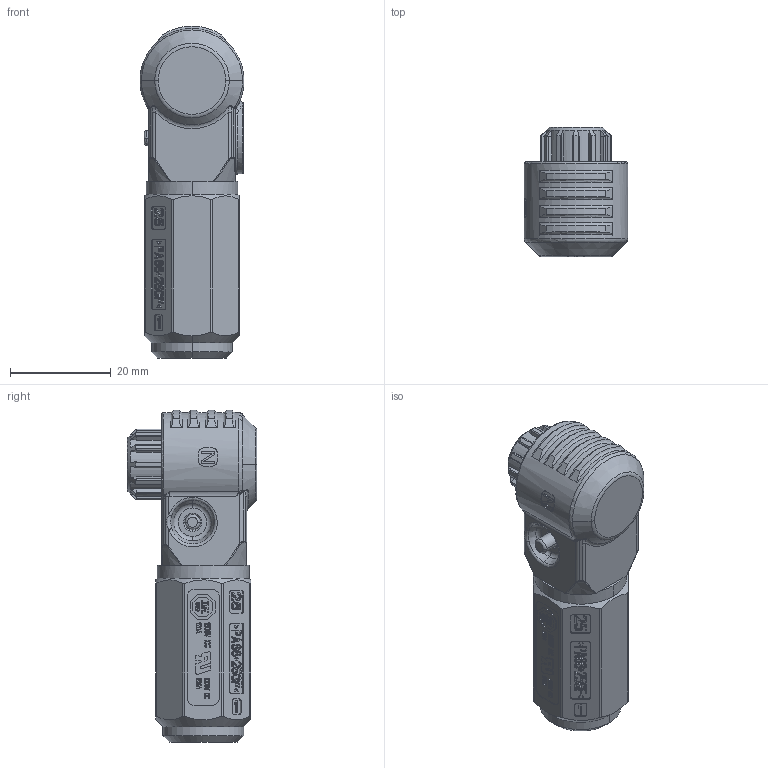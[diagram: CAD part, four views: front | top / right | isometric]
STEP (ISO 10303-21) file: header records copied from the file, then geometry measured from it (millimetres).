
FILE_DESCRIPTION((''),'2;1');
FILE_NAME('HRCT-P0157-N25_1','2024-05-30T10:22:45',('zc'),(''),'CREO PARAMETRIC BY PTC INC, 2018050','CREO PARAMETRIC BY PTC INC, 2018050','');
FILE_SCHEMA(('CONFIG_CONTROL_DESIGN'));
Length unit declared in the file: millimetre
Products named in the file (1): HRCT-P0157-N25_1
Bounding box: 20.65 x 25.72 x 65.92 mm (x, y, z)
Volume: 15989.3 mm3; surface area: 9445.2 mm2
Topology: 1 solids, 4 shells, 2781 faces, 8033 edges, 5348 vertices
Faces by surface type: plane 1801, extrusion 510, cylinder 231, torus 94, cone 74, bspline 68, sphere 3
Entity records: 103158 total; most frequent: CARTESIAN_POINT 33749, ORIENTED_EDGE 16058, DIRECTION 11462, EDGE_CURVE 8029, VECTOR 5662, VERTEX_POINT 5348, LINE 5152, EDGE_LOOP 2925
